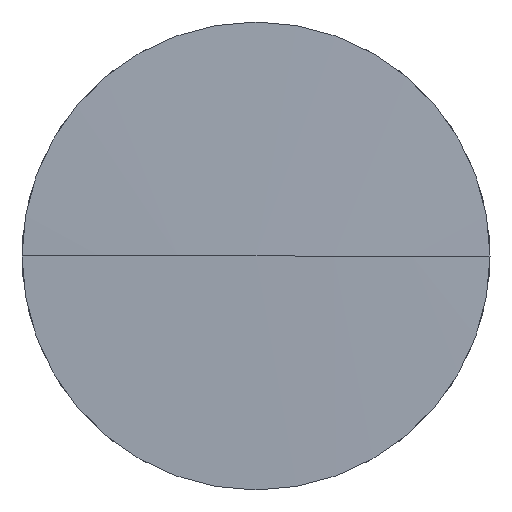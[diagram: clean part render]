
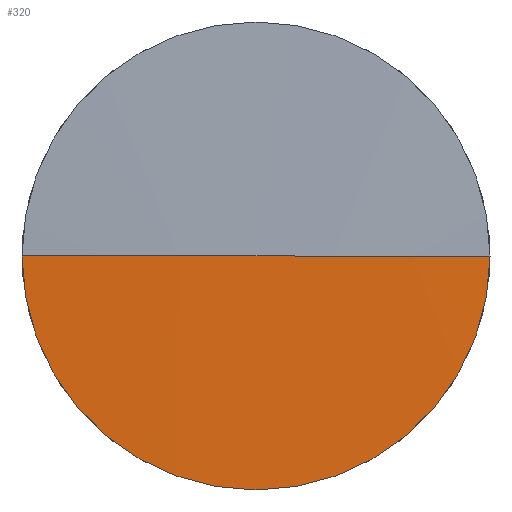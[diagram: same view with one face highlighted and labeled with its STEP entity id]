
A CAD part, left-side view. The second image highlights one B-rep face of the part: STEP entity #320.
In plain terms, the highlighted spherical face has radius 800 mm.
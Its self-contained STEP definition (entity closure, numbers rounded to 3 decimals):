
#24 = CIRCLE ( 'NONE', #338, 800. ) ;
#33 = ORIENTED_EDGE ( 'NONE', *, *, #792, .F. ) ;
#65 = CARTESIAN_POINT ( 'NONE',  ( -92., 0., 0. ) ) ;
#73 = EDGE_CURVE ( 'NONE', #580, #244, #24, .T. ) ;
#119 = CARTESIAN_POINT ( 'NONE',  ( -91.577, 26., 0. ) ) ;
#153 = EDGE_CURVE ( 'NONE', #198, #580, #553, .T. ) ;
#156 = VERTEX_POINT ( 'NONE', #119 ) ;
#166 = CARTESIAN_POINT ( 'NONE',  ( 708., 0., 0. ) ) ;
#173 = EDGE_CURVE ( 'NONE', #156, #198, #258, .T. ) ;
#198 = VERTEX_POINT ( 'NONE', #773 ) ;
#236 = SPHERICAL_SURFACE ( 'NONE', #625, 800. ) ;
#244 = VERTEX_POINT ( 'NONE', #65 ) ;
#245 = CARTESIAN_POINT ( 'NONE',  ( -91.577, 0., 0. ) ) ;
#254 = DIRECTION ( 'NONE',  ( 0., 0., 1. ) ) ;
#258 = CIRCLE ( 'NONE', #714, 26. ) ;
#320 = ADVANCED_FACE ( 'NONE', ( #573 ), #236, .T. ) ;
#326 = ORIENTED_EDGE ( 'NONE', *, *, #173, .T. ) ;
#338 = AXIS2_PLACEMENT_3D ( 'NONE', #612, #356, #489 ) ;
#345 = AXIS2_PLACEMENT_3D ( 'NONE', #347, #670, #541 ) ;
#347 = CARTESIAN_POINT ( 'NONE',  ( 708., 0., 0. ) ) ;
#356 = DIRECTION ( 'NONE',  ( 0., 0., -1. ) ) ;
#372 = DIRECTION ( 'NONE',  ( -1., 0., 0. ) ) ;
#383 = DIRECTION ( 'NONE',  ( 0., 1., 0. ) ) ;
#408 = CIRCLE ( 'NONE', #345, 800. ) ;
#430 = CARTESIAN_POINT ( 'NONE',  ( -91.577, 0., 0. ) ) ;
#452 = ORIENTED_EDGE ( 'NONE', *, *, #153, .T. ) ;
#489 = DIRECTION ( 'NONE',  ( 0., 1., 0. ) ) ;
#490 = AXIS2_PLACEMENT_3D ( 'NONE', #245, #372, #833 ) ;
#541 = DIRECTION ( 'NONE',  ( 1., 0., 0. ) ) ;
#553 = CIRCLE ( 'NONE', #490, 26. ) ;
#573 = FACE_OUTER_BOUND ( 'NONE', #698, .T. ) ;
#580 = VERTEX_POINT ( 'NONE', #815 ) ;
#612 = CARTESIAN_POINT ( 'NONE',  ( 708., 0., 0. ) ) ;
#625 = AXIS2_PLACEMENT_3D ( 'NONE', #166, #776, #383 ) ;
#627 = DIRECTION ( 'NONE',  ( -1., 0., 0. ) ) ;
#666 = ORIENTED_EDGE ( 'NONE', *, *, #73, .T. ) ;
#670 = DIRECTION ( 'NONE',  ( 0., 0., 1. ) ) ;
#698 = EDGE_LOOP ( 'NONE', ( #452, #666, #33, #326 ) ) ;
#714 = AXIS2_PLACEMENT_3D ( 'NONE', #430, #627, #254 ) ;
#773 = CARTESIAN_POINT ( 'NONE',  ( -91.577, 0., -26. ) ) ;
#776 = DIRECTION ( 'NONE',  ( 0., 0., -1. ) ) ;
#792 = EDGE_CURVE ( 'NONE', #156, #244, #408, .T. ) ;
#815 = CARTESIAN_POINT ( 'NONE',  ( -91.577, -26., 0. ) ) ;
#833 = DIRECTION ( 'NONE',  ( 0., 0., 1. ) ) ;
